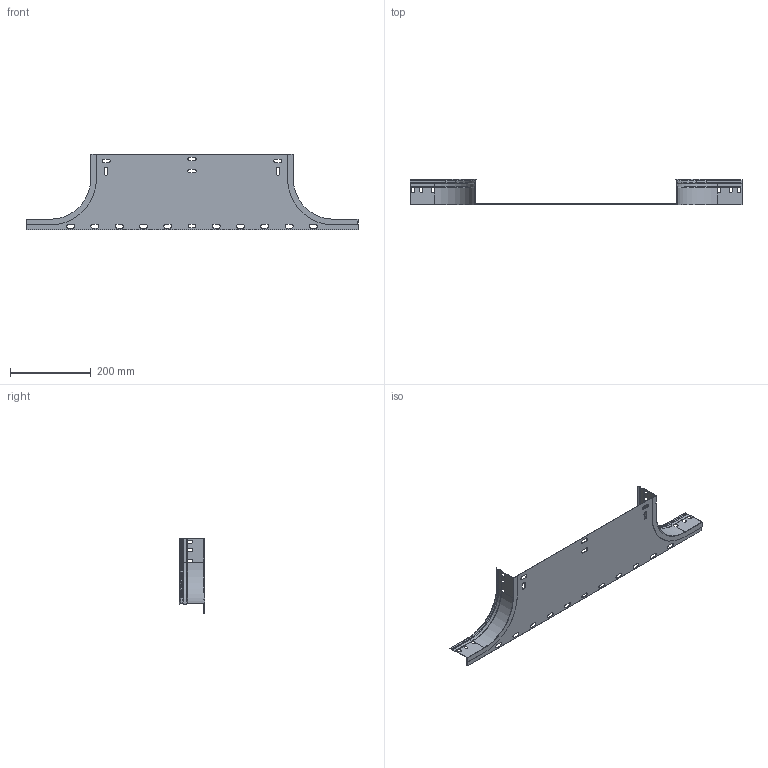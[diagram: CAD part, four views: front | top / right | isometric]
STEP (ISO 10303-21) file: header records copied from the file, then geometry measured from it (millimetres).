
FILE_DESCRIPTION (( 'STEP AP203' ), '1' );
FILE_NAME ('ERE_AS 500x60.step', '2023-07-27T18:50:12', ( '' ), ( '' ), 'SwSTEP 2.0', 'SolidWorks 2022', '' );
FILE_SCHEMA (( 'CONFIG_CONTROL_DESIGN' ));
Length unit declared in the file: millimetre
Products named in the file (3): ERE_AS 500x60; ERE_BASE AS_500; ERE_LATERAL AS_60
Assembly tree (3 placements, depth 2):
  ERE_AS 500x60
    ERE_BASE AS_500
    ERE_LATERAL AS_60  x2
Bounding box: 820 x 62 x 185.5 mm (x, y, z)
Volume: 123965.6 mm3; surface area: 292799.2 mm2
Topology: 3 solids, 3 shells, 234 faces, 672 edges, 420 vertices
Faces by surface type: plane 144, cylinder 76, cone 14
Entity records: 5583 total; most frequent: CARTESIAN_POINT 922, ORIENTED_EDGE 912, DIRECTION 910, EDGE_CURVE 456, VECTOR 322, LINE 322, AXIS2_PLACEMENT_3D 294, VERTEX_POINT 290
